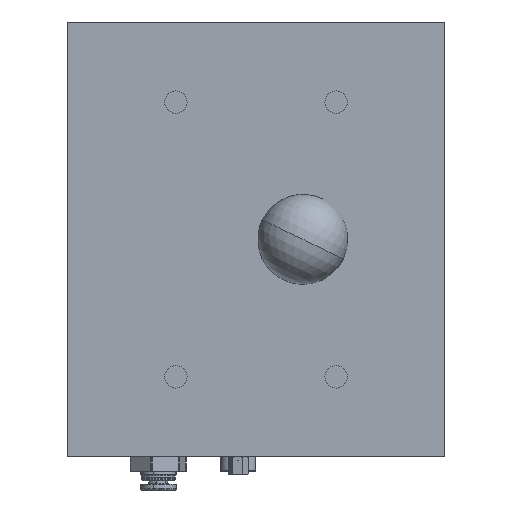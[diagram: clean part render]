
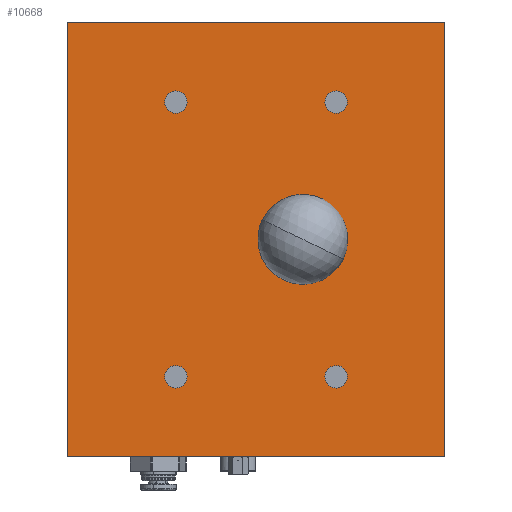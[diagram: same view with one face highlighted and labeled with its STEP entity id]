
A CAD part, left-side view. The second image highlights one B-rep face of the part: STEP entity #10668.
In plain terms, the highlighted planar face has unit normal (-1, 0, 0).
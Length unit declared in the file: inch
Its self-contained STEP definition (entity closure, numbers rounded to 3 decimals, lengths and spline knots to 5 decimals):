
#90 = EDGE_LOOP ( 'NONE', ( #8270, #13916 ) ) ;
#120 = ORIENTED_EDGE ( 'NONE', *, *, #10189, .F. ) ;
#270 = CARTESIAN_POINT ( 'NONE',  ( -9.625, 1.1875, 1.37697 ) ) ;
#280 = DIRECTION ( 'NONE',  ( 0., 0., -1. ) ) ;
#284 = DIRECTION ( 'NONE',  ( 0., 1., 0. ) ) ;
#321 = EDGE_CURVE ( 'Defeatured_0_370+Defeatured_0_316+Defeatured_0_316+Defeatured_0_316', #5592, #2478, #4379, .T. ) ;
#447 = EDGE_LOOP ( 'NONE', ( #8789, #11771, #12857, #8370 ) ) ;
#503 = EDGE_CURVE ( 'Defeatured_0_316+Defeatured_0_331+Defeatured_0_330+Defeatured_0_315', #12554, #12477, #8762, .T. ) ;
#583 = CARTESIAN_POINT ( 'NONE',  ( -9.625, 1.1875, -1.5 ) ) ;
#658 = ORIENTED_EDGE ( 'NONE', *, *, #836, .F. ) ;
#780 = CARTESIAN_POINT ( 'NONE',  ( -9.625, 2.9375, 1.62303 ) ) ;
#836 = EDGE_CURVE ( 'Defeatured_0_370+Defeatured_0_316+Defeatured_0_316+Defeatured_0_316', #2478, #5592, #13886, .T. ) ;
#852 = AXIS2_PLACEMENT_3D ( 'NONE', #9990, #11132, #6601 ) ;
#1007 = LINE ( 'NONE', #4170, #7549 ) ;
#1332 = DIRECTION ( 'NONE',  ( 0., 0., -1. ) ) ;
#1519 = VERTEX_POINT ( 'NONE', #3359 ) ;
#1619 = DIRECTION ( 'NONE',  ( 1., 0., 0. ) ) ;
#1624 = DIRECTION ( 'NONE',  ( 0., 0., -1. ) ) ;
#1666 = CIRCLE ( 'NONE', #11479, 0.12303 ) ;
#1767 = FACE_OUTER_BOUND ( 'NONE', #447, .T. ) ;
#1782 = EDGE_CURVE ( 'Defeatured_0_316+Defeatured_0_261+Defeatured_0_261+Defeatured_0_261', #12134, #9854, #3558, .T. ) ;
#2355 = ORIENTED_EDGE ( 'NONE', *, *, #321, .F. ) ;
#2478 = VERTEX_POINT ( 'NONE', #10080 ) ;
#2485 = AXIS2_PLACEMENT_3D ( 'NONE', #8397, #1619, #9566 ) ;
#2491 = ORIENTED_EDGE ( 'NONE', *, *, #13739, .F. ) ;
#2566 = ORIENTED_EDGE ( 'NONE', *, *, #9643, .F. ) ;
#2663 = DIRECTION ( 'NONE',  ( -1., 0., 0. ) ) ;
#2705 = CARTESIAN_POINT ( 'NONE',  ( -9.625, 4.125, 2.375 ) ) ;
#2713 = CARTESIAN_POINT ( 'NONE',  ( -9.625, 1.1875, 1.5 ) ) ;
#2716 = CARTESIAN_POINT ( 'NONE',  ( -9.625, 1.1875, -1.5 ) ) ;
#2971 = CARTESIAN_POINT ( 'NONE',  ( -9.625, 0., 2.375 ) ) ;
#3021 = AXIS2_PLACEMENT_3D ( 'NONE', #2713, #14050, #13950 ) ;
#3036 = EDGE_CURVE ( 'Defeatured_0_316+Defeatured_0_261+Defeatured_0_261+Defeatured_0_261', #9854, #12134, #6680, .T. ) ;
#3110 = CARTESIAN_POINT ( 'NONE',  ( -9.625, 2.9375, 1.5 ) ) ;
#3308 = LINE ( 'NONE', #2971, #9887 ) ;
#3359 = CARTESIAN_POINT ( 'NONE',  ( -9.625, 2.9375, -1.62303 ) ) ;
#3364 = EDGE_CURVE ( 'Defeatured_0_372+Defeatured_0_316+Defeatured_0_316+Defeatured_0_316', #11273, #12864, #5684, .T. ) ;
#3423 = DIRECTION ( 'NONE',  ( -1., 0., 0. ) ) ;
#3558 = CIRCLE ( 'NONE', #2485, 0.25 ) ;
#3751 = CARTESIAN_POINT ( 'NONE',  ( -9.625, 1.1875, -1.62303 ) ) ;
#4072 = FACE_BOUND ( 'NONE', #10677, .T. ) ;
#4170 = CARTESIAN_POINT ( 'NONE',  ( -9.625, 4.125, 2.375 ) ) ;
#4205 = VERTEX_POINT ( 'NONE', #9489 ) ;
#4257 = CARTESIAN_POINT ( 'NONE',  ( -9.625, 4.125, -2.375 ) ) ;
#4342 = CARTESIAN_POINT ( 'NONE',  ( -9.625, 1.1875, 1.5 ) ) ;
#4379 = CIRCLE ( 'NONE', #8414, 0.12303 ) ;
#4443 = CARTESIAN_POINT ( 'NONE',  ( -9.625, 2.9375, 1.37697 ) ) ;
#4515 = DIRECTION ( 'NONE',  ( 1., 0., 0. ) ) ;
#5062 = VECTOR ( 'NONE', #284, 39.37008 ) ;
#5161 = VECTOR ( 'NONE', #10507, 39.37008 ) ;
#5332 = CIRCLE ( 'NONE', #10294, 0.12303 ) ;
#5391 = DIRECTION ( 'NONE',  ( -1., 0., 0. ) ) ;
#5547 = VERTEX_POINT ( 'NONE', #6074 ) ;
#5592 = VERTEX_POINT ( 'NONE', #270 ) ;
#5684 = CIRCLE ( 'NONE', #14601, 0.12303 ) ;
#5835 = CARTESIAN_POINT ( 'NONE',  ( -9.625, 2.9375, 1.5 ) ) ;
#6074 = CARTESIAN_POINT ( 'NONE',  ( -9.625, 2.9375, -1.37697 ) ) ;
#6601 = DIRECTION ( 'NONE',  ( 0., 0., -1. ) ) ;
#6680 = CIRCLE ( 'NONE', #12237, 0.25 ) ;
#6880 = CARTESIAN_POINT ( 'NONE',  ( -9.625, 1.37579, 0.17931 ) ) ;
#6907 = CIRCLE ( 'NONE', #12695, 0.12303 ) ;
#6977 = EDGE_LOOP ( 'NONE', ( #7687, #10699 ) ) ;
#7059 = DIRECTION ( 'NONE',  ( -1., 0., 0. ) ) ;
#7367 = DIRECTION ( 'NONE',  ( -1., 0., 0. ) ) ;
#7375 = EDGE_CURVE ( 'Defeatured_0_366+Defeatured_0_316+Defeatured_0_316+Defeatured_0_316', #5547, #1519, #1666, .T. ) ;
#7549 = VECTOR ( 'NONE', #7650, 39.37008 ) ;
#7650 = DIRECTION ( 'NONE',  ( 0., 0., -1. ) ) ;
#7687 = ORIENTED_EDGE ( 'NONE', *, *, #3364, .F. ) ;
#7870 = DIRECTION ( 'NONE',  ( 0., 0., -1. ) ) ;
#7927 = CARTESIAN_POINT ( 'NONE',  ( -9.625, 2.9375, -1.5 ) ) ;
#7940 = FACE_BOUND ( 'NONE', #6977, .T. ) ;
#8270 = ORIENTED_EDGE ( 'NONE', *, *, #1782, .T. ) ;
#8273 = CARTESIAN_POINT ( 'NONE',  ( -9.625, 0., 2.375 ) ) ;
#8370 = ORIENTED_EDGE ( 'NONE', *, *, #8627, .T. ) ;
#8397 = CARTESIAN_POINT ( 'NONE',  ( -9.625, 1.55, 0. ) ) ;
#8414 = AXIS2_PLACEMENT_3D ( 'NONE', #4342, #8766, #14544 ) ;
#8584 = EDGE_CURVE ( 'Defeatured_0_316+Defeatured_0_315+Defeatured_0_331+Defeatured_0_326', #12477, #14018, #1007, .T. ) ;
#8627 = EDGE_CURVE ( 'Defeatured_0_316+Defeatured_0_330+Defeatured_0_326+Defeatured_0_331', #13247, #12554, #3308, .T. ) ;
#8762 = LINE ( 'NONE', #13796, #5062 ) ;
#8766 = DIRECTION ( 'NONE',  ( -1., 0., 0. ) ) ;
#8789 = ORIENTED_EDGE ( 'NONE', *, *, #503, .T. ) ;
#9058 = PLANE ( 'NONE',  #11688 ) ;
#9434 = VERTEX_POINT ( 'NONE', #3751 ) ;
#9489 = CARTESIAN_POINT ( 'NONE',  ( -9.625, 1.1875, -1.37697 ) ) ;
#9552 = AXIS2_PLACEMENT_3D ( 'NONE', #5835, #7059, #280 ) ;
#9566 = DIRECTION ( 'NONE',  ( 0., 0., 1. ) ) ;
#9643 = EDGE_CURVE ( 'Defeatured_0_366+Defeatured_0_316+Defeatured_0_316+Defeatured_0_316', #1519, #5547, #13540, .T. ) ;
#9854 = VERTEX_POINT ( 'NONE', #6880 ) ;
#9887 = VECTOR ( 'NONE', #13095, 39.37008 ) ;
#9954 = LINE ( 'NONE', #13951, #5161 ) ;
#9990 = CARTESIAN_POINT ( 'NONE',  ( -9.625, 2.9375, -1.5 ) ) ;
#10080 = CARTESIAN_POINT ( 'NONE',  ( -9.625, 1.1875, 1.62303 ) ) ;
#10099 = FACE_BOUND ( 'NONE', #90, .T. ) ;
#10128 = EDGE_CURVE ( 'Defeatured_0_316+Defeatured_0_326+Defeatured_0_315+Defeatured_0_330', #14018, #13247, #9954, .T. ) ;
#10189 = EDGE_CURVE ( 'Defeatured_0_368+Defeatured_0_316+Defeatured_0_316+Defeatured_0_316', #4205, #9434, #6907, .T. ) ;
#10216 = CARTESIAN_POINT ( 'NONE',  ( -9.625, 4.125, 2.375 ) ) ;
#10294 = AXIS2_PLACEMENT_3D ( 'NONE', #2716, #2663, #1624 ) ;
#10417 = DIRECTION ( 'NONE',  ( -1., 0., 0. ) ) ;
#10471 = CIRCLE ( 'NONE', #9552, 0.12303 ) ;
#10485 = ORIENTED_EDGE ( 'NONE', *, *, #7375, .F. ) ;
#10507 = DIRECTION ( 'NONE',  ( 0., -1., 0. ) ) ;
#10555 = DIRECTION ( 'NONE',  ( 0., 0., 1. ) ) ;
#10668 = ADVANCED_FACE ( 'Defeatured_0_316', ( #7940, #4072, #11681, #11158, #10099, #1767 ), #9058, .T. ) ;
#10677 = EDGE_LOOP ( 'NONE', ( #2355, #658 ) ) ;
#10699 = ORIENTED_EDGE ( 'NONE', *, *, #13724, .F. ) ;
#11132 = DIRECTION ( 'NONE',  ( -1., 0., 0. ) ) ;
#11158 = FACE_BOUND ( 'NONE', #11491, .T. ) ;
#11273 = VERTEX_POINT ( 'NONE', #4443 ) ;
#11479 = AXIS2_PLACEMENT_3D ( 'NONE', #7927, #3423, #7870 ) ;
#11491 = EDGE_LOOP ( 'NONE', ( #2566, #10485 ) ) ;
#11681 = FACE_BOUND ( 'NONE', #12127, .T. ) ;
#11688 = AXIS2_PLACEMENT_3D ( 'NONE', #10216, #10417, #1332 ) ;
#11771 = ORIENTED_EDGE ( 'NONE', *, *, #8584, .T. ) ;
#11926 = DIRECTION ( 'NONE',  ( 0., 0., -1. ) ) ;
#12020 = DIRECTION ( 'NONE',  ( 0., 0., -1. ) ) ;
#12127 = EDGE_LOOP ( 'NONE', ( #2491, #120 ) ) ;
#12134 = VERTEX_POINT ( 'NONE', #12899 ) ;
#12237 = AXIS2_PLACEMENT_3D ( 'NONE', #13842, #4515, #10555 ) ;
#12477 = VERTEX_POINT ( 'NONE', #2705 ) ;
#12526 = CARTESIAN_POINT ( 'NONE',  ( -9.625, 0., -2.375 ) ) ;
#12554 = VERTEX_POINT ( 'NONE', #8273 ) ;
#12695 = AXIS2_PLACEMENT_3D ( 'NONE', #583, #7367, #11926 ) ;
#12857 = ORIENTED_EDGE ( 'NONE', *, *, #10128, .T. ) ;
#12864 = VERTEX_POINT ( 'NONE', #780 ) ;
#12899 = CARTESIAN_POINT ( 'NONE',  ( -9.625, 1.72421, -0.17931 ) ) ;
#13095 = DIRECTION ( 'NONE',  ( 0., 0., 1. ) ) ;
#13247 = VERTEX_POINT ( 'NONE', #12526 ) ;
#13540 = CIRCLE ( 'NONE', #852, 0.12303 ) ;
#13724 = EDGE_CURVE ( 'Defeatured_0_372+Defeatured_0_316+Defeatured_0_316+Defeatured_0_316', #12864, #11273, #10471, .T. ) ;
#13739 = EDGE_CURVE ( 'Defeatured_0_368+Defeatured_0_316+Defeatured_0_316+Defeatured_0_316', #9434, #4205, #5332, .T. ) ;
#13796 = CARTESIAN_POINT ( 'NONE',  ( -9.625, 0., 2.375 ) ) ;
#13842 = CARTESIAN_POINT ( 'NONE',  ( -9.625, 1.55, 0. ) ) ;
#13886 = CIRCLE ( 'NONE', #3021, 0.12303 ) ;
#13916 = ORIENTED_EDGE ( 'NONE', *, *, #3036, .T. ) ;
#13950 = DIRECTION ( 'NONE',  ( 0., 0., -1. ) ) ;
#13951 = CARTESIAN_POINT ( 'NONE',  ( -9.625, 0., -2.375 ) ) ;
#14018 = VERTEX_POINT ( 'NONE', #4257 ) ;
#14050 = DIRECTION ( 'NONE',  ( -1., 0., 0. ) ) ;
#14544 = DIRECTION ( 'NONE',  ( 0., 0., -1. ) ) ;
#14601 = AXIS2_PLACEMENT_3D ( 'NONE', #3110, #5391, #12020 ) ;
